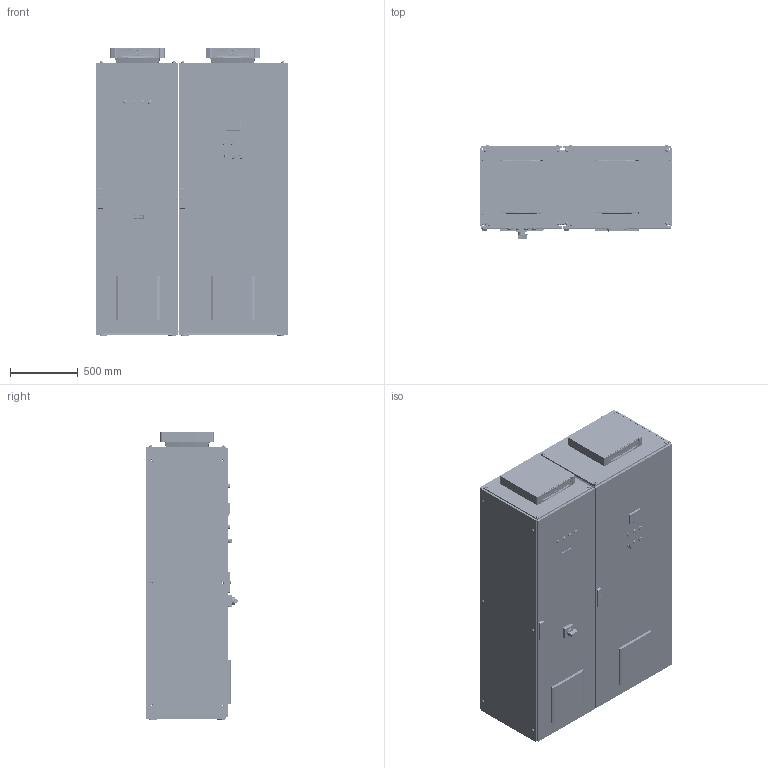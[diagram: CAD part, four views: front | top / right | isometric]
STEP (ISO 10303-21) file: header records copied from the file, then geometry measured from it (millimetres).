
FILE_DESCRIPTION(('Open CASCADE Model'),'2;1');
FILE_NAME('Open CASCADE Shape Model','2025-07-18T11:42:45',('Author'),( 'Open CASCADE'),'Open CASCADE STEP processor 7.6','Open CASCADE 7.6' ,'Unknown');
FILE_SCHEMA(('CONFIG_CONTROL_DESIGN','SHAPE_APPEARANCE_LAYER_MIM'));
Length unit declared in the file: millimetre
Products named in the file (98): S1:Boden (98); 2338514662272; S1:Bodenblech (119); 2338400291104; S1:Bodenblech (120); 2338400279408; S1:Bodenblech (121); 2337917820432; S1:Schrankzubehör allgemein (122); 2337917827776; S1:Schrankzubehör allgemein (123); S1:Schrankzubehör allgemein (124); S1:Schrankzubehör allgemein (125); S1:Rahmenprofil horizontal Boden (100); 2338470013424; S1:Seitenwand links (135); 2337917829408; S1:Dachblech (101); 2338470017232; =3+-M1 (137); 2337917831584; S1:Schrankzubehör allgemein (128); 2337422392160; S1:Schrankzubehör allgemein (129); S1:Schrankzubehör allgemein (130); S1:Schrankzubehör allgemein (131); S1:Rückwand (106); 2338470015600; S1:Schrankzubehör allgemein (274); 2337917821248; S1:Schrankzubehör allgemein (275); 2337917826416; S1:Tür (108); 2338390372416; =1+-PF1 (47); 2338430911584; =1+-PF2 (43); 2337336963696; =1+-PF3 (48); 2337336980016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
Assembly tree (108 placements, depth 3):
  S1:Boden (98)
    2338514662272
    S1:Bodenblech (119)
      2338400291104
    S1:Bodenblech (120)
      2338400279408
    S1:Bodenblech (121)
      2337917820432
    S1:Schrankzubehör allgemein (122)
      2337917827776
    S1:Schrankzubehör allgemein (123)
      2337917827776
    S1:Schrankzubehör allgemein (124)
      2337917827776
    S1:Schrankzubehör allgemein (125)
      2337917827776
  S1:Rahmenprofil horizontal Boden (100)
    2338470013424
    S1:Seitenwand links (135)
      2337917829408
  S1:Dachblech (101)
    2338470017232
    =3+-M1 (137)
      2337917831584
    S1:Schrankzubehör allgemein (128)
      2337422392160
    S1:Schrankzubehör allgemein (129)
      2337422392160
    S1:Schrankzubehör allgemein (130)
      2337422392160
    S1:Schrankzubehör allgemein (131)
      2337422392160
  S1:Rückwand (106)
    2338470015600
    S1:Schrankzubehör allgemein (274)
      2337917821248
    S1:Schrankzubehör allgemein (275)
      2337917826416
  S1:Tür (108)
    2338390372416
    =1+-PF1 (47)
      2338430911584
    =1+-PF2 (43)
      2337336963696
    =1+-PF3 (48)
      2337336980016
    =1+-PF4 (297)
      2337336959072
    =1+-PG1 (42)
      2337336961520
    =1+-Q1 (456)
      2339385819072
    S1:Schrankzubehör allgemein (132)
      2338430916208
    S1:Schrankzubehör allgemein (175)
      2337422496608
    S1:Schrankzubehör allgemein (178)
      2337422500144
Bounding box: 1408 x 683.8 x 2114 mm (x, y, z)
Volume: 59270482.2 mm3; surface area: 25898367.6 mm2
Topology: 89 solids, 4753 shells, 20146 faces, 58218 edges, 43451 vertices
Faces by surface type: plane 16346, cylinder 2841, cone 665, torus 202, bspline 44, sphere 30, revolution 18
Full cylindrical faces by diameter (mm): 4.5 x4, 7.4 x8, 8 x32, 8.7 x4, 9.28 x8, 10 x16, 11.2 x4, 11.22 x4, 11.25 x4, 12 x8, 13 x12, 14 x16, 16 x10, 16.1 x2, 19.8 x2, 21 x8, 22 x8, 24 x8, 200 x2
Entity records: 580973 total; most frequent: CARTESIAN_POINT 119464, DIRECTION 90909, ORIENTED_EDGE 87376, EDGE_CURVE 50896, LINE 43379, VECTOR 43379, VERTEX_POINT 38609, AXIS2_PLACEMENT_3D 23756
